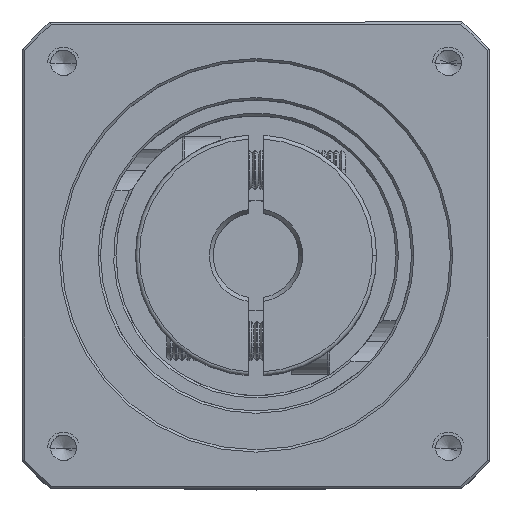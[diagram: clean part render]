
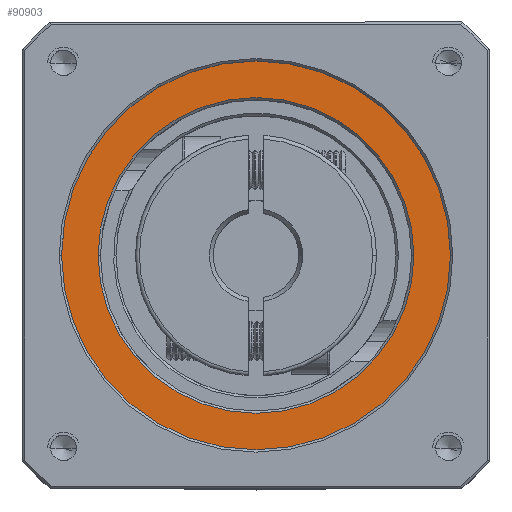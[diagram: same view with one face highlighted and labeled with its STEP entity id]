
A CAD part, top view. The second image highlights one B-rep face of the part: STEP entity #90903.
In plain terms, the highlighted planar face has unit normal (0, 0, 1).
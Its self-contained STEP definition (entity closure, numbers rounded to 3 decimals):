
#8127 = FACE_BOUND ( 'NONE', #100365, .T. ) ;
#8575 = EDGE_CURVE ( 'NONE', #25219, #24432, #22685, .T. ) ;
#11931 = EDGE_CURVE ( 'NONE', #29559, #35104, #81302, .T. ) ;
#19173 = CARTESIAN_POINT ( 'NONE',  ( -74.716, 10.431, 30.713 ) ) ;
#20371 = DIRECTION ( 'NONE',  ( 0., 0., 1. ) ) ;
#21301 = AXIS2_PLACEMENT_3D ( 'NONE', #70091, #20371, #78418 ) ;
#22685 = CIRCLE ( 'NONE', #86804, 20.3 ) ;
#24432 = VERTEX_POINT ( 'NONE', #103418 ) ;
#25219 = VERTEX_POINT ( 'NONE', #34377 ) ;
#27564 = DIRECTION ( 'NONE',  ( 1., 0., 0. ) ) ;
#29559 = VERTEX_POINT ( 'NONE', #43964 ) ;
#31792 = CARTESIAN_POINT ( 'NONE',  ( -74.716, 10.431, 30.713 ) ) ;
#32030 = AXIS2_PLACEMENT_3D ( 'NONE', #84010, #34360, #92467 ) ;
#33960 = CIRCLE ( 'NONE', #32030, 20.3 ) ;
#34217 = CARTESIAN_POINT ( 'NONE',  ( -49.716, 10.431, 30.713 ) ) ;
#34360 = DIRECTION ( 'NONE',  ( 0., 0., -1. ) ) ;
#34377 = CARTESIAN_POINT ( 'NONE',  ( -95.016, 10.431, 30.713 ) ) ;
#35104 = VERTEX_POINT ( 'NONE', #34217 ) ;
#40138 = DIRECTION ( 'NONE',  ( 1., 0., 0. ) ) ;
#43895 = PLANE ( 'NONE',  #55343 ) ;
#43964 = CARTESIAN_POINT ( 'NONE',  ( -99.716, 10.431, 30.713 ) ) ;
#48657 = EDGE_CURVE ( 'NONE', #24432, #25219, #33960, .T. ) ;
#49661 = FACE_OUTER_BOUND ( 'NONE', #87689, .T. ) ;
#55343 = AXIS2_PLACEMENT_3D ( 'NONE', #19173, #77235, #27564 ) ;
#59841 = CIRCLE ( 'NONE', #21301, 25. ) ;
#70091 = CARTESIAN_POINT ( 'NONE',  ( -74.716, 10.431, 30.713 ) ) ;
#77235 = DIRECTION ( 'NONE',  ( 0., 0., 1. ) ) ;
#77368 = EDGE_CURVE ( 'NONE', #35104, #29559, #59841, .T. ) ;
#78418 = DIRECTION ( 'NONE',  ( 1., 0., 0. ) ) ;
#81302 = CIRCLE ( 'NONE', #84371, 25. ) ;
#84010 = CARTESIAN_POINT ( 'NONE',  ( -74.716, 10.431, 30.713 ) ) ;
#84371 = AXIS2_PLACEMENT_3D ( 'NONE', #31792, #89899, #40138 ) ;
#86804 = AXIS2_PLACEMENT_3D ( 'NONE', #95810, #95794, #95588 ) ;
#87689 = EDGE_LOOP ( 'NONE', ( #93935, #94281 ) ) ;
#89899 = DIRECTION ( 'NONE',  ( 0., 0., 1. ) ) ;
#90903 = ADVANCED_FACE ( 'NONE', ( #8127, #49661 ), #43895, .T. ) ;
#91067 = ORIENTED_EDGE ( 'NONE', *, *, #48657, .T. ) ;
#92467 = DIRECTION ( 'NONE',  ( 1., 0., 0. ) ) ;
#92521 = ORIENTED_EDGE ( 'NONE', *, *, #8575, .T. ) ;
#93935 = ORIENTED_EDGE ( 'NONE', *, *, #77368, .T. ) ;
#94281 = ORIENTED_EDGE ( 'NONE', *, *, #11931, .T. ) ;
#95588 = DIRECTION ( 'NONE',  ( 1., 0., 0. ) ) ;
#95794 = DIRECTION ( 'NONE',  ( 0., 0., -1. ) ) ;
#95810 = CARTESIAN_POINT ( 'NONE',  ( -74.716, 10.431, 30.713 ) ) ;
#100365 = EDGE_LOOP ( 'NONE', ( #91067, #92521 ) ) ;
#103418 = CARTESIAN_POINT ( 'NONE',  ( -54.416, 10.431, 30.713 ) ) ;
